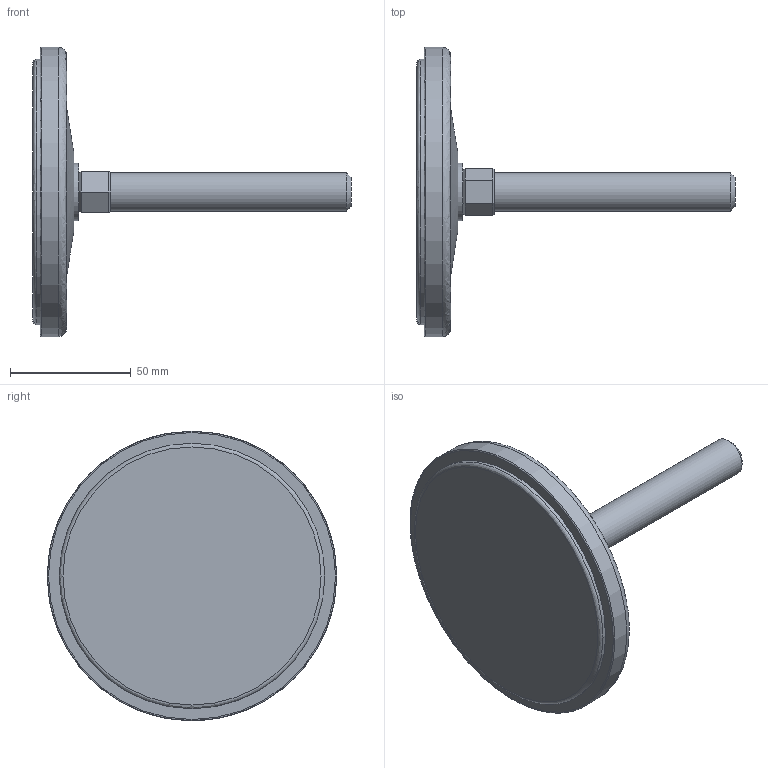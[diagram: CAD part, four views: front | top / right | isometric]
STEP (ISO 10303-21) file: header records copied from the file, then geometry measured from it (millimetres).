
FILE_DESCRIPTION(('STEP AP203'),'2;1');
FILE_NAME('15222-G.stp','2014-06-20T08:43:41',(''),(''),'2008.1.107','THINKDESIGN','');
FILE_SCHEMA(('CONFIG_CONTROL_DESIGN'));
Length unit declared in the file: millimetre
Bounding box: 132 x 120 x 120 mm (x, y, z)
Volume: 178054 mm3; surface area: 55903.5 mm2
Topology: 5 solids, 5 shells, 49 faces, 117 edges, 82 vertices
Faces by surface type: bspline 22, plane 19, cylinder 8
Full cylindrical faces by diameter (mm): 12.5 x2, 14.7 x1, 16 x1, 24 x1, 110 x2, 120 x1
Entity records: 2474 total; most frequent: CARTESIAN_POINT 1141, ORIENTED_EDGE 232, DIRECTION 231, EDGE_CURVE 116, AXIS2_PLACEMENT_3D 87, VERTEX_POINT 80, CIRCLE 60, EDGE_LOOP 58
